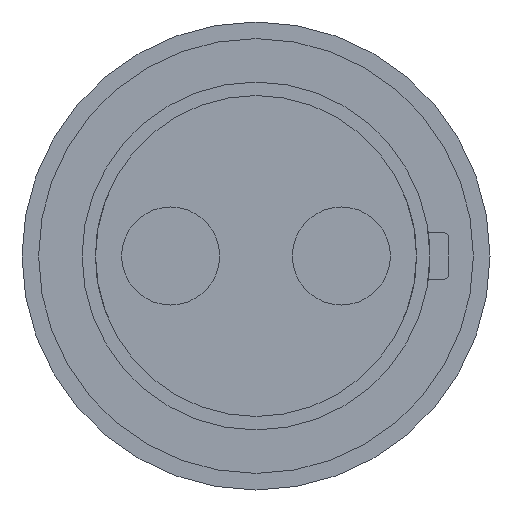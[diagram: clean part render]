
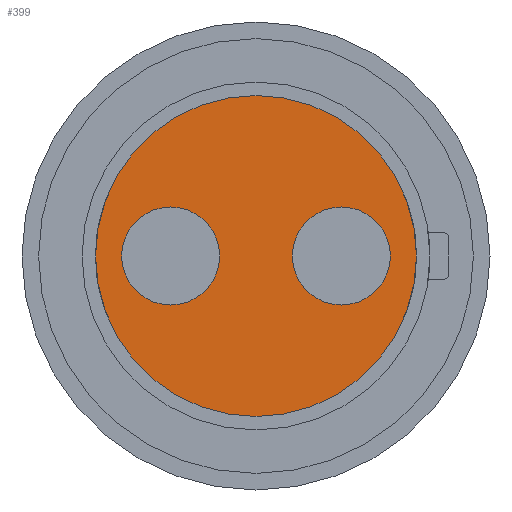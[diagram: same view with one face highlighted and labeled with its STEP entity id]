
A CAD part, front view. The second image highlights one B-rep face of the part: STEP entity #399.
In plain terms, the highlighted planar face has unit normal (0, -1, 0).
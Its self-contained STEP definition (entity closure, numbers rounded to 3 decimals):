
#13 = EDGE_CURVE ( 'NONE', #1104, #20, #970, .T. ) ;
#14 = DIRECTION ( 'NONE',  ( 1., 0., 0. ) ) ;
#17 = CARTESIAN_POINT ( 'NONE',  ( 0., -43.5, 0. ) ) ;
#20 = VERTEX_POINT ( 'NONE', #639 ) ;
#44 = CARTESIAN_POINT ( 'NONE',  ( -2.3, -43.5, 0. ) ) ;
#54 = EDGE_LOOP ( 'NONE', ( #1209, #524 ) ) ;
#56 = DIRECTION ( 'NONE',  ( 1., 0., 0. ) ) ;
#83 = DIRECTION ( 'NONE',  ( 1., 0., 0. ) ) ;
#85 = EDGE_LOOP ( 'NONE', ( #337, #801 ) ) ;
#119 = DIRECTION ( 'NONE',  ( 0., -1., 0. ) ) ;
#165 = CARTESIAN_POINT ( 'NONE',  ( 5.4, -43.5, 0. ) ) ;
#176 = AXIS2_PLACEMENT_3D ( 'NONE', #682, #119, #770 ) ;
#180 = EDGE_CURVE ( 'NONE', #775, #382, #376, .T. ) ;
#184 = EDGE_CURVE ( 'NONE', #20, #1104, #1115, .T. ) ;
#189 = ORIENTED_EDGE ( 'NONE', *, *, #725, .F. ) ;
#209 = CARTESIAN_POINT ( 'NONE',  ( -5.4, -43.5, 0. ) ) ;
#212 = DIRECTION ( 'NONE',  ( 0., -1., 0. ) ) ;
#256 = DIRECTION ( 'NONE',  ( 1., 0., 0. ) ) ;
#291 = FACE_BOUND ( 'NONE', #361, .T. ) ;
#299 = AXIS2_PLACEMENT_3D ( 'NONE', #758, #212, #979 ) ;
#312 = CARTESIAN_POINT ( 'NONE',  ( -10.15, -43.5, 0. ) ) ;
#337 = ORIENTED_EDGE ( 'NONE', *, *, #574, .T. ) ;
#361 = EDGE_LOOP ( 'NONE', ( #1181, #189 ) ) ;
#376 = CIRCLE ( 'NONE', #1097, 3.1 ) ;
#382 = VERTEX_POINT ( 'NONE', #419 ) ;
#399 = ADVANCED_FACE ( 'NONE', ( #291, #1001, #1035 ), #455, .T. ) ;
#419 = CARTESIAN_POINT ( 'NONE',  ( -8.5, -43.5, 0. ) ) ;
#455 = PLANE ( 'NONE',  #299 ) ;
#477 = AXIS2_PLACEMENT_3D ( 'NONE', #17, #667, #256 ) ;
#485 = DIRECTION ( 'NONE',  ( 0., -1., 0. ) ) ;
#523 = CARTESIAN_POINT ( 'NONE',  ( 5.4, -43.5, 0. ) ) ;
#524 = ORIENTED_EDGE ( 'NONE', *, *, #13, .F. ) ;
#545 = CARTESIAN_POINT ( 'NONE',  ( 10.15, -43.5, 0. ) ) ;
#554 = DIRECTION ( 'NONE',  ( 0., -1., 0. ) ) ;
#574 = EDGE_CURVE ( 'NONE', #814, #753, #1147, .T. ) ;
#639 = CARTESIAN_POINT ( 'NONE',  ( 8.5, -43.5, 0. ) ) ;
#651 = CIRCLE ( 'NONE', #776, 3.1 ) ;
#667 = DIRECTION ( 'NONE',  ( 0., -1., 0. ) ) ;
#682 = CARTESIAN_POINT ( 'NONE',  ( 0., -43.5, 0. ) ) ;
#703 = DIRECTION ( 'NONE',  ( 0., -1., 0. ) ) ;
#725 = EDGE_CURVE ( 'NONE', #382, #775, #651, .T. ) ;
#739 = CIRCLE ( 'NONE', #477, 10.15 ) ;
#742 = DIRECTION ( 'NONE',  ( 0., -1., 0. ) ) ;
#743 = AXIS2_PLACEMENT_3D ( 'NONE', #523, #742, #83 ) ;
#753 = VERTEX_POINT ( 'NONE', #312 ) ;
#758 = CARTESIAN_POINT ( 'NONE',  ( 10.15, -43.5, 0. ) ) ;
#770 = DIRECTION ( 'NONE',  ( 1., 0., 0. ) ) ;
#775 = VERTEX_POINT ( 'NONE', #44 ) ;
#776 = AXIS2_PLACEMENT_3D ( 'NONE', #1144, #485, #1055 ) ;
#801 = ORIENTED_EDGE ( 'NONE', *, *, #988, .T. ) ;
#814 = VERTEX_POINT ( 'NONE', #545 ) ;
#970 = CIRCLE ( 'NONE', #743, 3.1 ) ;
#979 = DIRECTION ( 'NONE',  ( 1., 0., 0. ) ) ;
#988 = EDGE_CURVE ( 'NONE', #753, #814, #739, .T. ) ;
#1001 = FACE_BOUND ( 'NONE', #54, .T. ) ;
#1006 = CARTESIAN_POINT ( 'NONE',  ( 2.3, -43.5, 0. ) ) ;
#1035 = FACE_OUTER_BOUND ( 'NONE', #85, .T. ) ;
#1037 = AXIS2_PLACEMENT_3D ( 'NONE', #165, #554, #14 ) ;
#1055 = DIRECTION ( 'NONE',  ( 1., 0., 0. ) ) ;
#1097 = AXIS2_PLACEMENT_3D ( 'NONE', #209, #703, #56 ) ;
#1104 = VERTEX_POINT ( 'NONE', #1006 ) ;
#1115 = CIRCLE ( 'NONE', #1037, 3.1 ) ;
#1144 = CARTESIAN_POINT ( 'NONE',  ( -5.4, -43.5, 0. ) ) ;
#1147 = CIRCLE ( 'NONE', #176, 10.15 ) ;
#1181 = ORIENTED_EDGE ( 'NONE', *, *, #180, .F. ) ;
#1209 = ORIENTED_EDGE ( 'NONE', *, *, #184, .F. ) ;
